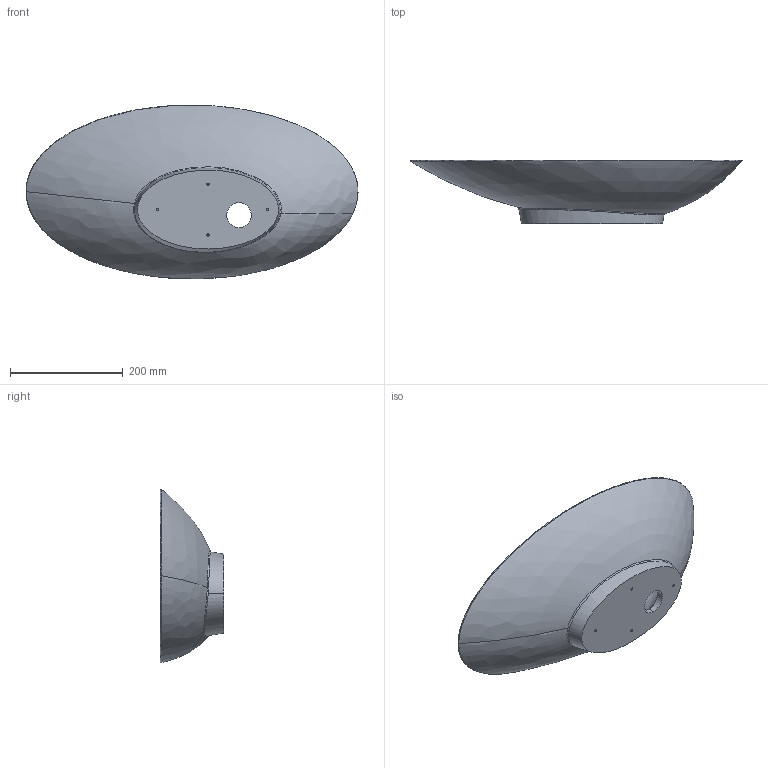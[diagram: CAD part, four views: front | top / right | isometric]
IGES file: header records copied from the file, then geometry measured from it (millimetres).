
Start section: SolidWorks IGES file using analytic representation for surfaces
Global section: file name: H:\PRZECHOWALNIA\__07.2013\16. OMNIRES\GRACE.IGS; native system: SolidWorks 2013; preprocessor: SolidWorks 2013; author: krzysztofn; date: 130716.103930; units: millimetre
Bounding box: 588.84 x 113 x 308.33 mm (x, y, z)
Volume: 2651339.4 mm3; surface area: 375586 mm2
Topology: 1 solids, 1 shells, 32 faces, 76 edges, 50 vertices
Faces by surface type: bspline 14, revolution 12, plane 6
